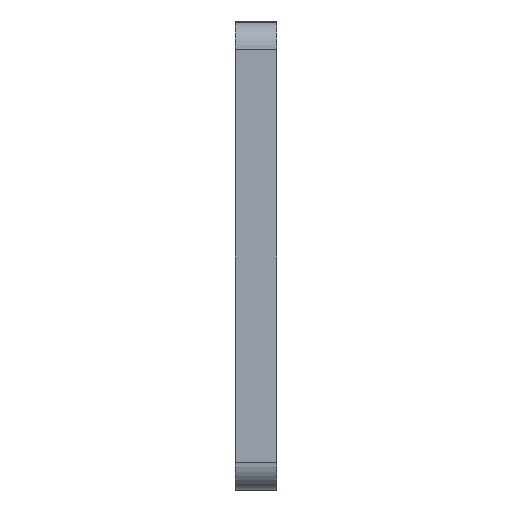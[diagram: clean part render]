
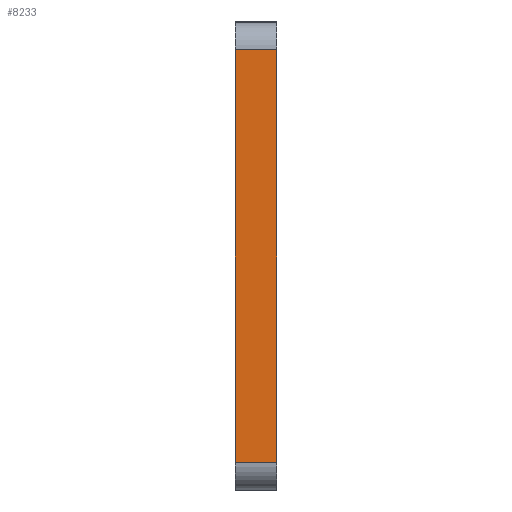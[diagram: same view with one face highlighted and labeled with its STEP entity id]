
A CAD part, left-side view. The second image highlights one B-rep face of the part: STEP entity #8233.
In plain terms, the highlighted planar face has unit normal (-1, 0, 0).
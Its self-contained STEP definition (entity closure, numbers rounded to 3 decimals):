
#551 = DIRECTION ( 'NONE',  ( 0., 0., -1. ) ) ;
#662 = EDGE_CURVE ( 'NONE', #2491, #6968, #2395, .T. ) ;
#1069 = PLANE ( 'NONE',  #5762 ) ;
#1250 = CARTESIAN_POINT ( 'NONE',  ( -265., 15., -85. ) ) ;
#1451 = DIRECTION ( 'NONE',  ( 0., 1., 0. ) ) ;
#1718 = CARTESIAN_POINT ( 'NONE',  ( -265., 15., 75. ) ) ;
#2191 = CARTESIAN_POINT ( 'NONE',  ( -265., 0., -85. ) ) ;
#2368 = VECTOR ( 'NONE', #2768, 1000. ) ;
#2395 = LINE ( 'NONE', #2479, #4558 ) ;
#2437 = DIRECTION ( 'NONE',  ( 0., 0., 1. ) ) ;
#2479 = CARTESIAN_POINT ( 'NONE',  ( -265., 15., -75. ) ) ;
#2491 = VERTEX_POINT ( 'NONE', #5818 ) ;
#2768 = DIRECTION ( 'NONE',  ( 0., 0., 1. ) ) ;
#3051 = VERTEX_POINT ( 'NONE', #1718 ) ;
#3959 = ORIENTED_EDGE ( 'NONE', *, *, #662, .T. ) ;
#4224 = ORIENTED_EDGE ( 'NONE', *, *, #5691, .T. ) ;
#4495 = EDGE_LOOP ( 'NONE', ( #6148, #3959, #5696, #4224 ) ) ;
#4558 = VECTOR ( 'NONE', #5676, 1000. ) ;
#5106 = CARTESIAN_POINT ( 'NONE',  ( -265., 15., -85. ) ) ;
#5676 = DIRECTION ( 'NONE',  ( 0., -1., 0. ) ) ;
#5691 = EDGE_CURVE ( 'NONE', #5753, #3051, #7470, .T. ) ;
#5696 = ORIENTED_EDGE ( 'NONE', *, *, #7267, .T. ) ;
#5753 = VERTEX_POINT ( 'NONE', #7800 ) ;
#5762 = AXIS2_PLACEMENT_3D ( 'NONE', #1250, #8395, #551 ) ;
#5818 = CARTESIAN_POINT ( 'NONE',  ( -265., 15., -75. ) ) ;
#5904 = VECTOR ( 'NONE', #2437, 1000. ) ;
#6021 = VECTOR ( 'NONE', #1451, 1000. ) ;
#6148 = ORIENTED_EDGE ( 'NONE', *, *, #7904, .F. ) ;
#6968 = VERTEX_POINT ( 'NONE', #7571 ) ;
#7267 = EDGE_CURVE ( 'NONE', #6968, #5753, #8200, .T. ) ;
#7427 = CARTESIAN_POINT ( 'NONE',  ( -265., 15., 75. ) ) ;
#7470 = LINE ( 'NONE', #7427, #6021 ) ;
#7571 = CARTESIAN_POINT ( 'NONE',  ( -265., 0., -75. ) ) ;
#7800 = CARTESIAN_POINT ( 'NONE',  ( -265., 0., 75. ) ) ;
#7904 = EDGE_CURVE ( 'NONE', #2491, #3051, #8538, .T. ) ;
#8200 = LINE ( 'NONE', #2191, #2368 ) ;
#8233 = ADVANCED_FACE ( 'NONE', ( #8437 ), #1069, .F. ) ;
#8395 = DIRECTION ( 'NONE',  ( 1., 0., 0. ) ) ;
#8437 = FACE_OUTER_BOUND ( 'NONE', #4495, .T. ) ;
#8538 = LINE ( 'NONE', #5106, #5904 ) ;
